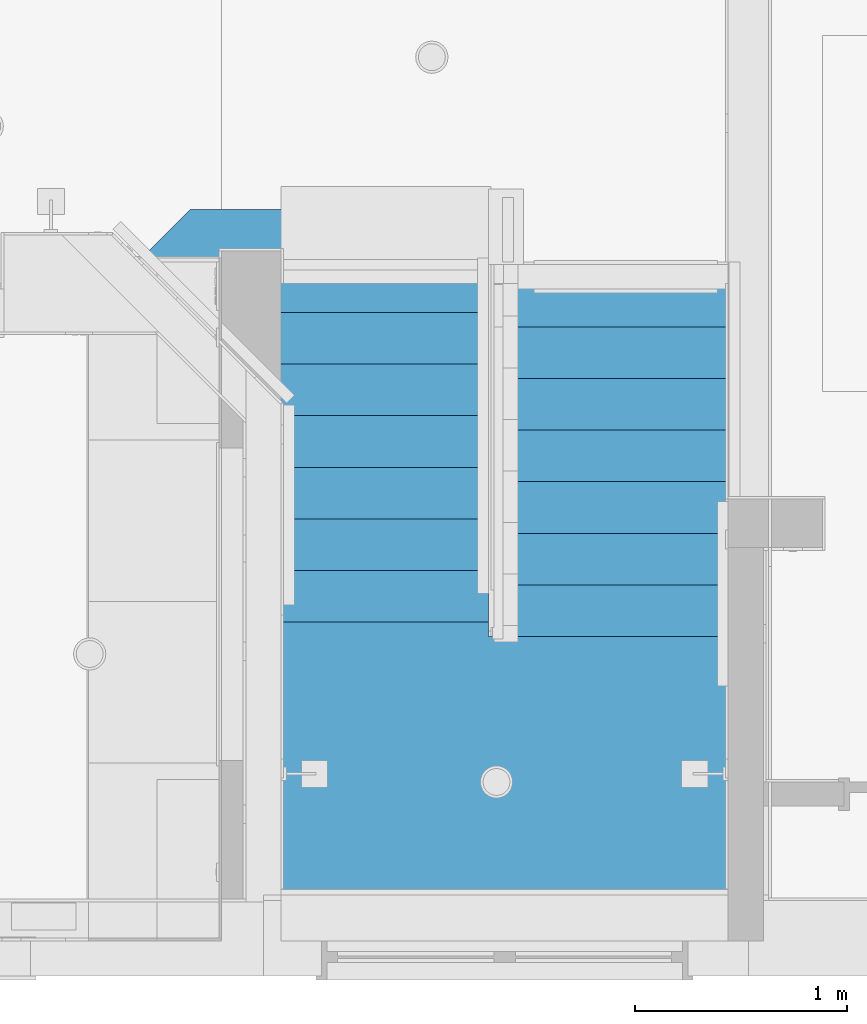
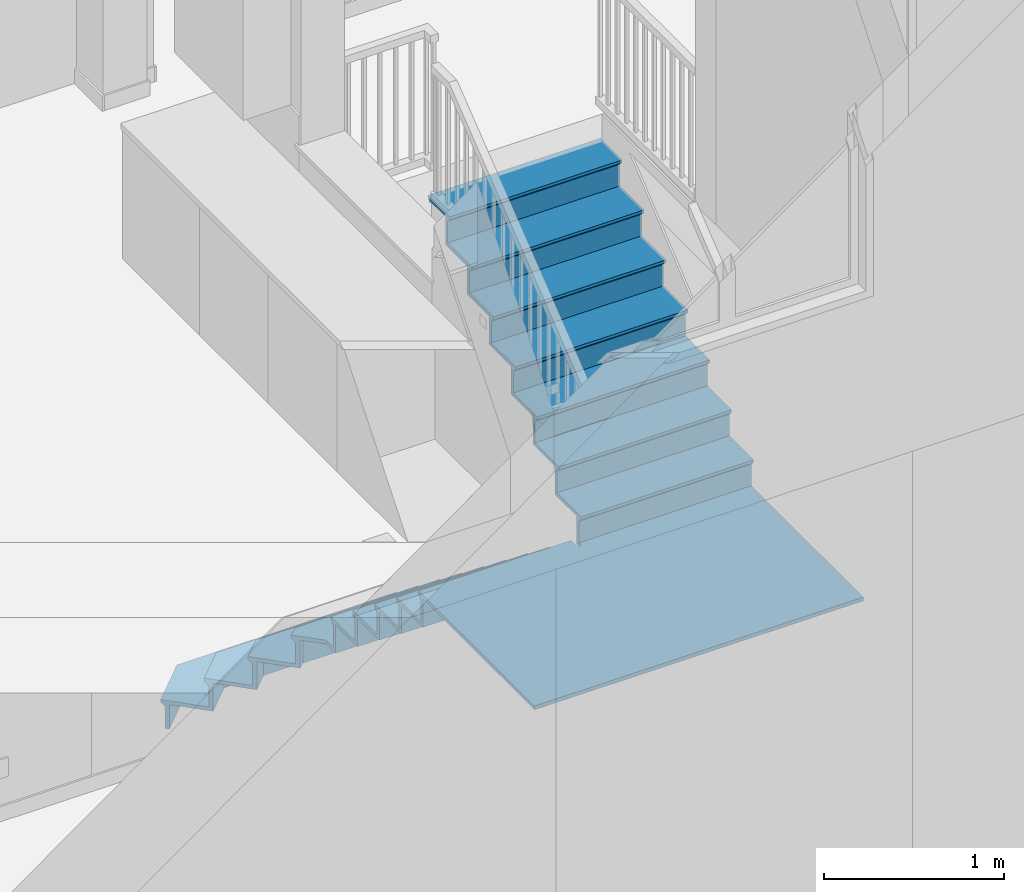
# One storey, part 30 of 60: 1 stair flight, 1 element without a shape of its own.
"""IFC2X3 building model written with IfcOpenShell, lengths in feet."""

from ifc_helpers import new_model, entity, si_unit, converted_unit, direction, frame, origin, place, context, subcontext, project, spatial, faceted_brep, material, type_object, element, aggregate, save


model = new_model("IFC2X3")

# Units and contexts
model_context = context("Model", 3, precision=0.0001, world=origin(), true_north=direction((6.123031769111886e-17, 1.0)))
plan_context = context("Plan", 3, precision=0.0001, world=origin(), true_north=direction((6.123031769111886e-17, 1.0)))
body_context = subcontext(model_context, "Body", "Model", "MODEL_VIEW")
ifc_project = project(units=[converted_unit("LENGTHUNIT", "FOOT", entity("IfcLengthMeasure", 0.3048), si_unit("LENGTHUNIT", "METRE"), dimensions=[1, 0, 0, 0, 0, 0, 0]), converted_unit("AREAUNIT", "SQUARE FOOT", entity("IfcAreaMeasure", 0.09290304), si_unit("AREAUNIT", "SQUARE_METRE"), dimensions=[2, 0, 0, 0, 0, 0, 0]), converted_unit("PLANEANGLEUNIT", "DEGREE", entity("IfcPlaneAngleMeasure", 0.017453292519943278), si_unit("PLANEANGLEUNIT", "RADIAN"), dimensions=[0, 0, 0, 0, 0, 0, 0])], contexts=[model_context, plan_context])

# Site, building, storey
site_placement = place(None, origin())
site = spatial("IfcSite", under=ifc_project, at=site_placement, Name="Default", CompositionType="ELEMENT")
building_placement = place(site_placement, origin())
building = spatial("IfcBuilding", under=site, at=building_placement, CompositionType="ELEMENT")
storey_placement = place(building_placement, origin())
storey = spatial("IfcBuildingStorey", under=building, at=storey_placement, Name="First floor", CompositionType="ELEMENT", Elevation=0.0)

# Stair, stair flight
type_product = type_object("IfcTypeProduct", Name="Assembled Stair:Stair_2018")
stair_placement = place(storey_placement, origin())
stair = element("IfcStair", 1, at=stair_placement, inside=storey, type_object=type_product, Name="Assembled Stair:Stair", ObjectType="Assembled Stair:Stair_2018", ShapeType="NOTDEFINED")
ifc_material = material(Name="Default New Material")
stair_flight_type = type_object("IfcStairFlightType", Name="Non-Monolithic Run:1\" Tread 1\" Nosing 1/4\" Riser 2", PredefinedType="NOTDEFINED")
stair_flight_placement = place(stair_placement, frame((11.247962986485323, 1.2498757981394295, 0.0)))
stair_flight = element("IfcStairFlight", 2, at=stair_flight_placement, type_object=stair_flight_type, material=ifc_material, Name="Assembled Stair:Stair:1826337 Run 1", ObjectType="Non-Monolithic Run:1\" Tread 1\" Nosing 1/4\" Riser 2", NumberOfRiser=16, NumberOfTreads=16, RiserHeight=0.6276041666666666, TreadLength=1.0, context=body_context, shape_type="Brep", body=[
    faceted_brep([(0.8104629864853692, 10.604290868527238, 0.5651041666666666), (0.8104629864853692, 10.604290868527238, 0.6276041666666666), (5.418703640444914, 10.604290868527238, 0.6276041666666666), (5.418703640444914, 10.604290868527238, 0.5651041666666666), (0.8449807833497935, 10.520957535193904, 0.48177083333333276), (5.418703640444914, 10.520957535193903, 0.481770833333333), (5.418703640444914, 10.520957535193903, 0.5442708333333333), (0.8449807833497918, 10.520957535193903, 0.5442708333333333), (0.0, 9.793827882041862, 0.6276041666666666), (0.6425504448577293, 9.15127743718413, 0.6276041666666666), (1.2146114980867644, 9.723338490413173, 0.6276041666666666), (5.418703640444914, 9.723338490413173, 0.6276041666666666), (5.418703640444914, 9.723338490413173, 0.5442708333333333), (1.2146114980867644, 9.723338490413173, 0.5442708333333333), (0.6425504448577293, 9.15127743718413, 0.5442708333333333), (0.05892556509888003, 9.734902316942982, 0.5442708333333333), (0.0, 9.793827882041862, 0.5651041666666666), (0.05892556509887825, 9.734902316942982, 0.481770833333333)], [[[0, 1, 2, 3]], [[4, 0, 3, 5]], [[4, 5, 6, 7]], [[2, 1, 8, 9, 10, 11]], [[6, 12, 13, 14, 15, 7]], [[2, 11, 12, 6, 5, 3]], [[9, 8, 16, 17, 15, 14]], [[11, 10, 13, 12]], [[16, 8, 1, 0]], [[17, 16, 0, 4]], [[17, 4, 7, 15]], [[10, 9, 14, 13]]]),
    faceted_brep([(5.418703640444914, 10.520957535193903, 0.5442708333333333), (5.418703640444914, 10.43762420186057, 0.5442708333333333), (5.418703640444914, 10.43762420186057, 0.0), (5.418703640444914, 10.520957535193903, 0.0), (0.8449807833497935, 10.520957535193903, 0.0), (0.8449807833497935, 10.520957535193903, 0.5442708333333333), (0.8794985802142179, 10.43762420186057, 0.0), (0.8794985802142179, 10.43762420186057, 0.5442708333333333), (0.05892556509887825, 9.734902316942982, 0.5442708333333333), (0.05892556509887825, 9.734902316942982, 0.0), (0.1178511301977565, 9.675976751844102, 0.0), (0.1178511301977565, 9.675976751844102, 0.5442708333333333)], [[[0, 1, 2, 3]], [[4, 5, 0, 3]], [[6, 4, 3, 2]], [[7, 6, 2, 1]], [[5, 7, 1, 0]], [[8, 9, 10, 11]], [[9, 8, 5, 4]], [[10, 9, 4, 6]], [[11, 10, 6, 7]], [[8, 11, 7, 5]]]),
    faceted_brep([(5.418703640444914, 9.723338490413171, 1.171875), (5.418703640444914, 9.64000515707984, 1.171875), (5.418703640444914, 9.64000515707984, 0.5442708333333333), (5.418703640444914, 9.723338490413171, 0.5442708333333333), (1.2146114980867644, 9.723338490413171, 0.5442708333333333), (1.2146114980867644, 9.723338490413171, 1.171875), (1.2491292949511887, 9.64000515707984, 0.5442708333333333), (1.2491292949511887, 9.64000515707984, 1.171875), (0.6425504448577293, 9.15127743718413, 1.171875), (0.6425504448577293, 9.15127743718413, 0.5442708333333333), (0.7014760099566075, 9.09235187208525, 0.5442708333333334), (0.7014760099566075, 9.09235187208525, 1.171875)], [[[0, 1, 2, 3]], [[4, 5, 0, 3]], [[6, 4, 3, 2]], [[7, 6, 2, 1]], [[5, 7, 1, 0]], [[8, 9, 10, 11]], [[9, 8, 5, 4]], [[10, 9, 4, 6]], [[11, 10, 6, 7]], [[8, 11, 7, 5]]]),
    faceted_brep([(5.418703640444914, 9.806671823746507, 1.2552083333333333), (1.18009370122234, 9.806671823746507, 1.2552083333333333), (0.583624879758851, 9.21020300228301, 1.2552083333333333), (1.2261753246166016, 8.567652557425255, 1.2552083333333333), (1.5842422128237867, 8.925719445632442, 1.2552083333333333), (5.418703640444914, 8.925719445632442, 1.2552083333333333), (5.418703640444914, 9.723338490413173, 1.171875), (5.418703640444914, 8.925719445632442, 1.171875), (1.5842422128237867, 8.925719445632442, 1.171875), (1.2261753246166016, 8.567652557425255, 1.171875), (0.6425504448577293, 9.151277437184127, 1.171875), (1.2146114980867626, 9.723338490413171, 1.171875), (5.418703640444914, 9.723338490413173, 1.1093749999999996), (5.418703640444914, 9.806671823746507, 1.1927083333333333), (0.583624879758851, 9.21020300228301, 1.1927083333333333), (0.6425504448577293, 9.15127743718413, 1.1093749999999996), (1.18009370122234, 9.806671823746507, 1.1927083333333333), (1.2146114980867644, 9.723338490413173, 1.1093749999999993)], [[[0, 1, 2, 3, 4, 5]], [[6, 7, 8, 9, 10, 11]], [[0, 5, 7, 6, 12, 13]], [[3, 2, 14, 15, 10, 9]], [[5, 4, 8, 7]], [[16, 1, 0, 13]], [[17, 16, 13, 12]], [[17, 12, 6, 11]], [[4, 3, 9, 8]], [[14, 2, 1, 16]], [[15, 14, 16, 17]], [[15, 17, 11, 10]]]),
    faceted_brep([(2.210369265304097, 4.937624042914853, 4.9375), (2.210369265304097, 4.937624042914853, 4.309895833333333), (2.210369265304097, 4.8542907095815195, 4.309895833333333), (2.210369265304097, 4.8542907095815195, 4.9375), (5.418703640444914, 4.937624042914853, 4.9375), (5.418703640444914, 4.8542907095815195, 4.9375), (5.418703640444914, 4.8542907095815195, 4.309895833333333), (5.418703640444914, 4.937624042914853, 4.309895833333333)], [[[0, 1, 2, 3]], [[4, 5, 6, 7]], [[1, 0, 4, 7]], [[2, 1, 7, 6]], [[3, 2, 6, 5]], [[0, 3, 5, 4]]]),
    faceted_brep([(5.418703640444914, 5.020957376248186, 5.020833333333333), (2.210369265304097, 5.020957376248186, 5.020833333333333), (2.210369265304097, 4.140005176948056, 5.020833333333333), (5.418703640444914, 4.140005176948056, 5.020833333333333), (5.418703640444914, 4.937624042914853, 4.9375), (5.418703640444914, 4.140005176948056, 4.9375), (2.210369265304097, 4.140005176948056, 4.9375), (2.210369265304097, 4.937624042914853, 4.9375), (5.418703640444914, 4.937624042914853, 4.874999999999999), (5.418703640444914, 5.020957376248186, 4.958333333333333), (2.210369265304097, 5.020957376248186, 4.958333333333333), (2.210369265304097, 4.937624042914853, 4.875)], [[[0, 1, 2, 3]], [[4, 5, 6, 7]], [[0, 3, 5, 4, 8, 9]], [[2, 1, 10, 11, 7, 6]], [[3, 2, 6, 5]], [[10, 1, 0, 9]], [[11, 10, 9, 8]], [[11, 8, 4, 7]]]),
    faceted_brep([(2.210369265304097, 4.140005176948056, 5.565104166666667), (2.210369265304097, 4.140005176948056, 4.9375), (2.210369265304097, 4.056671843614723, 4.9375), (2.210369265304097, 4.056671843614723, 5.565104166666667), (5.418703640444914, 4.140005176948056, 5.565104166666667), (5.418703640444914, 4.056671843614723, 5.565104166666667), (5.418703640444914, 4.056671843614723, 4.9375), (5.418703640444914, 4.140005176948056, 4.9375)], [[[0, 1, 2, 3]], [[4, 5, 6, 7]], [[1, 0, 4, 7]], [[2, 1, 7, 6]], [[3, 2, 6, 5]], [[0, 3, 5, 4]]]),
    faceted_brep([(5.502037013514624, 4.083457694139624, 5.6484375), (5.502037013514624, 4.000124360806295, 5.6484375), (5.418703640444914, 4.000124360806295, 5.6484375), (5.418703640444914, 4.223338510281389, 5.6484375), (2.210369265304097, 4.223338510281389, 5.6484375), (2.210369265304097, 3.0956065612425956, 5.6484375), (2.210369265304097, 0.0, 5.6484375), (6.594305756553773, 0.0, 5.6484375), (9.127037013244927, 0.0, 5.6484375), (9.127037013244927, 4.000124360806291, 5.6484375), (9.127037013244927, 4.083457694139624, 5.6484375), (5.502037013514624, 4.000124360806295, 5.565104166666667), (5.502037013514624, 4.083457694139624, 5.565104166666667), (9.127037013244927, 4.083457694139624, 5.565104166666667), (9.127037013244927, 4.000124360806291, 5.565104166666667), (9.127037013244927, 0.0, 5.565104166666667), (6.594305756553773, 0.0, 5.565104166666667), (2.210369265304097, 0.0, 5.565104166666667), (2.210369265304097, 3.0956065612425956, 5.565104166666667), (2.210369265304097, 4.140005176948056, 5.565104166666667), (5.418703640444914, 4.140005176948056, 5.565104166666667), (5.418703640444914, 4.000124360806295, 5.565104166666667), (2.210369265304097, 4.223338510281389, 5.5859375), (2.210369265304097, 4.140005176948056, 5.502604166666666), (5.418703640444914, 4.223338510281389, 5.5859375), (5.418703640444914, 4.140005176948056, 5.502604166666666)], [[[0, 1, 2, 3, 4, 5, 6, 7, 8, 9, 10]], [[11, 12, 13, 14, 15, 16, 17, 18, 19, 20, 21]], [[1, 0, 12, 11]], [[2, 1, 11, 21]], [[5, 4, 22, 23, 19, 18]], [[6, 5, 18, 17]], [[7, 6, 17, 16]], [[8, 7, 16, 15]], [[0, 10, 13, 12]], [[23, 22, 24, 25]], [[23, 25, 20, 19]], [[3, 2, 21, 20, 25, 24]], [[9, 8, 15, 14]], [[10, 9, 14, 13]], [[22, 4, 3, 24]]]),
    faceted_brep([(9.127037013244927, 4.083457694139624, 6.192708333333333), (9.127037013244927, 4.083457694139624, 5.565104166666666), (9.127037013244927, 4.166791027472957, 5.565104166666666), (9.127037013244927, 4.166791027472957, 6.192708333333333), (5.502037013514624, 4.083457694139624, 6.192708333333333), (5.502037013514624, 4.166791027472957, 6.192708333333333), (5.502037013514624, 4.166791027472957, 5.565104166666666), (5.502037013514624, 4.083457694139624, 5.565104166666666)], [[[0, 1, 2, 3]], [[4, 5, 6, 7]], [[1, 0, 4, 7]], [[2, 1, 7, 6]], [[3, 2, 6, 5]], [[0, 3, 5, 4]]]),
    faceted_brep([(5.502037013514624, 4.000124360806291, 6.276041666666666), (9.127037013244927, 4.000124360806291, 6.276041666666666), (9.127037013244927, 4.881076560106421, 6.276041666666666), (5.502037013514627, 4.881076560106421, 6.276041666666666), (5.502037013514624, 4.083457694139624, 6.192708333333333), (5.502037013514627, 4.881076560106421, 6.192708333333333), (9.127037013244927, 4.881076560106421, 6.192708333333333), (9.127037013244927, 4.083457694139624, 6.192708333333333), (5.502037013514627, 4.083457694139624, 6.130208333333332), (5.502037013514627, 4.000124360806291, 6.213541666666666), (9.127037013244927, 4.000124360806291, 6.213541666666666), (9.127037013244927, 4.083457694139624, 6.130208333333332)], [[[0, 1, 2, 3]], [[4, 5, 6, 7]], [[0, 3, 5, 4, 8, 9]], [[2, 1, 10, 11, 7, 6]], [[3, 2, 6, 5]], [[10, 1, 0, 9]], [[11, 10, 9, 8]], [[11, 8, 4, 7]]]),
    faceted_brep([(9.127037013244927, 4.881076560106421, 6.8203125), (9.127037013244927, 4.881076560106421, 6.192708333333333), (9.127037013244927, 4.964409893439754, 6.192708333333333), (9.127037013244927, 4.964409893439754, 6.8203125), (5.502037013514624, 4.881076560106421, 6.8203125), (5.502037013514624, 4.964409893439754, 6.8203125), (5.502037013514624, 4.964409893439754, 6.192708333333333), (5.502037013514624, 4.881076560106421, 6.192708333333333)], [[[0, 1, 2, 3]], [[4, 5, 6, 7]], [[1, 0, 4, 7]], [[2, 1, 7, 6]], [[3, 2, 6, 5]], [[0, 3, 5, 4]]]),
    faceted_brep([(5.502037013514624, 4.797743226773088, 6.903645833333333), (9.127037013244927, 4.797743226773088, 6.903645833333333), (9.127037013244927, 5.678695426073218, 6.903645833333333), (5.502037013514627, 5.678695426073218, 6.903645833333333), (5.502037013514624, 4.881076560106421, 6.8203125), (5.502037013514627, 5.678695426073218, 6.8203125), (9.127037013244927, 5.678695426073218, 6.8203125), (9.127037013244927, 4.881076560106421, 6.8203125), (5.502037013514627, 4.881076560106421, 6.757812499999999), (5.502037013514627, 4.797743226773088, 6.841145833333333), (9.127037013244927, 4.797743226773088, 6.841145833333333), (9.127037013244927, 4.881076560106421, 6.757812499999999)], [[[0, 1, 2, 3]], [[4, 5, 6, 7]], [[0, 3, 5, 4, 8, 9]], [[2, 1, 10, 11, 7, 6]], [[3, 2, 6, 5]], [[10, 1, 0, 9]], [[11, 10, 9, 8]], [[11, 8, 4, 7]]]),
    faceted_brep([(5.418703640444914, 8.92571944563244, 1.7994791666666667), (5.418703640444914, 8.842386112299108, 1.7994791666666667), (5.418703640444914, 8.842386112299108, 1.171875), (5.418703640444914, 8.92571944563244, 1.171875), (1.584242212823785, 8.92571944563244, 1.171875), (1.5842422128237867, 8.92571944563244, 1.7994791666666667), (1.618760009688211, 8.842386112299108, 1.171875), (1.618760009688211, 8.84238611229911, 1.7994791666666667), (1.2261753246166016, 8.567652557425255, 1.7994791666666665), (1.2261753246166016, 8.567652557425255, 1.171875), (1.2851008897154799, 8.508726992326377, 1.171875), (1.2851008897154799, 8.508726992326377, 1.7994791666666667)], [[[0, 1, 2, 3]], [[4, 5, 0, 3]], [[6, 4, 3, 2]], [[7, 6, 2, 1]], [[5, 7, 1, 0]], [[8, 9, 10, 11]], [[9, 8, 5, 4]], [[10, 9, 4, 6]], [[11, 10, 6, 7]], [[8, 11, 7, 5]]]),
    faceted_brep([(5.418703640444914, 9.009052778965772, 1.8828125), (1.5497244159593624, 9.009052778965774, 1.8828125), (1.1672497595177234, 8.626578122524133, 1.8828125), (1.7996848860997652, 7.99414299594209, 1.8828125), (1.9503870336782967, 8.128100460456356, 1.8828125), (5.418703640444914, 8.128100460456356, 1.8828125), (5.418703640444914, 8.925719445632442, 1.7994791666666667), (5.418703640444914, 8.128100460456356, 1.7994791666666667), (1.9503870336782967, 8.128100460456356, 1.7994791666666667), (1.7996848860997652, 7.99414299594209, 1.7994791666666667), (1.2261753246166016, 8.567652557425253, 1.7994791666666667), (1.584242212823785, 8.92571944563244, 1.7994791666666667), (5.418703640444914, 8.925719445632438, 1.7369791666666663), (5.418703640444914, 9.009052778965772, 1.8203125), (1.1672497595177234, 8.626578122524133, 1.8203125), (1.2261753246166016, 8.567652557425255, 1.7369791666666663), (1.5497244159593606, 9.009052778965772, 1.8203125), (1.5842422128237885, 8.925719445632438, 1.736979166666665)], [[[0, 1, 2, 3, 4, 5]], [[6, 7, 8, 9, 10, 11]], [[0, 5, 7, 6, 12, 13]], [[3, 2, 14, 15, 10, 9]], [[5, 4, 8, 7]], [[16, 1, 0, 13]], [[17, 16, 13, 12]], [[17, 12, 6, 11]], [[4, 3, 9, 8]], [[14, 2, 1, 16]], [[15, 14, 16, 17]], [[15, 17, 11, 10]]]),
    faceted_brep([(9.127037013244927, 8.869171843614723, 9.958333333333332), (9.127037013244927, 8.869171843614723, 9.330729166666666), (9.127037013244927, 8.952505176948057, 9.330729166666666), (9.127037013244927, 8.952505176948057, 9.958333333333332), (5.502037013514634, 8.869171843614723, 9.958333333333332), (5.502037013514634, 8.952505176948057, 9.958333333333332), (5.502037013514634, 8.952505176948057, 9.330729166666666), (5.502037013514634, 8.869171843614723, 9.330729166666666)], [[[0, 1, 2, 3]], [[4, 5, 6, 7]], [[1, 0, 4, 7]], [[2, 1, 7, 6]], [[3, 2, 6, 5]], [[0, 3, 5, 4]]]),
    faceted_brep([(5.502037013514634, 8.785838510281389, 10.041666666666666), (9.127037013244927, 8.785838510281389, 10.041666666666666), (9.127037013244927, 9.583364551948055, 10.041666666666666), (5.502037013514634, 9.583364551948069, 10.041666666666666), (5.502037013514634, 8.869171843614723, 9.958333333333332), (5.502037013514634, 9.583364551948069, 9.958333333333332), (9.127037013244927, 9.583364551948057, 9.958333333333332), (9.127037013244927, 8.869171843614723, 9.958333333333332), (5.502037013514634, 8.869171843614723, 9.895833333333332), (5.502037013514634, 8.785838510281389, 9.979166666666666), (9.127037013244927, 8.785838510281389, 9.979166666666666), (9.127037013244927, 8.869171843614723, 9.895833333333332)], [[[0, 1, 2, 3]], [[4, 5, 6, 7]], [[0, 3, 5, 4, 8, 9]], [[2, 1, 10, 11, 7, 6]], [[3, 2, 6, 5]], [[10, 1, 0, 9]], [[11, 10, 9, 8]], [[11, 8, 4, 7]]]),
    faceted_brep([(1.7996848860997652, 7.99414299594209, 2.427083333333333), (1.7996848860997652, 7.99414299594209, 1.7994791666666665), (1.8587123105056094, 7.935115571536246, 1.7994791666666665), (1.8587123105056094, 7.935115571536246, 2.427083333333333), (1.9503870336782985, 8.128100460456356, 2.427083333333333), (1.9503870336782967, 8.128100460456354, 1.7994791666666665), (1.9820703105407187, 8.044767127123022, 1.7994791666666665), (1.9820703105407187, 8.044767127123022, 2.427083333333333), (5.418703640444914, 8.128100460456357, 2.427083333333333), (5.418703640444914, 8.044767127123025, 2.427083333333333), (5.418703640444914, 8.044767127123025, 1.7994791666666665), (5.418703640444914, 8.128100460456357, 1.7994791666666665)], [[[0, 1, 2, 3]], [[1, 0, 4, 5]], [[2, 1, 5, 6]], [[3, 2, 6, 7]], [[0, 3, 7, 4]], [[8, 9, 10, 11]], [[5, 4, 8, 11]], [[6, 5, 11, 10]], [[7, 6, 10, 9]], [[4, 7, 9, 8]]]),
    faceted_brep([(5.418703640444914, 8.21143379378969, 2.5104166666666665), (1.9187037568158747, 8.211433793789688, 2.5104166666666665), (1.740657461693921, 8.053170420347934, 2.5104166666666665), (2.210369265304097, 7.583458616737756, 2.5104166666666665), (2.210369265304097, 7.33048135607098, 2.5104166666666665), (5.418703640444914, 7.33048135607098, 2.5104166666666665), (5.418703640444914, 8.128100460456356, 2.427083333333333), (5.418703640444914, 7.33048135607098, 2.427083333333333), (2.210369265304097, 7.33048135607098, 2.427083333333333), (2.210369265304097, 7.583458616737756, 2.427083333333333), (1.7996848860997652, 7.99414299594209, 2.427083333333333), (1.9503870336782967, 8.128100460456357, 2.427083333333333), (5.418703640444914, 8.128100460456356, 2.364583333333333), (5.418703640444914, 8.21143379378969, 2.4479166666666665), (1.740657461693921, 8.053170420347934, 2.4479166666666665), (1.7996848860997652, 7.99414299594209, 2.364583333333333), (1.9187037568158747, 8.211433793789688, 2.4479166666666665), (1.9503870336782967, 8.128100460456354, 2.364583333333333)], [[[0, 1, 2, 3, 4, 5]], [[6, 7, 8, 9, 10, 11]], [[0, 5, 7, 6, 12, 13]], [[3, 2, 14, 15, 10, 9]], [[4, 3, 9, 8]], [[5, 4, 8, 7]], [[14, 2, 1, 16]], [[15, 14, 16, 17]], [[15, 17, 11, 10]], [[16, 1, 0, 13]], [[17, 16, 13, 12]], [[17, 12, 6, 11]]]),
    faceted_brep([(2.210369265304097, 7.33048135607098, 3.0546874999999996), (2.210369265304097, 7.33048135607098, 2.427083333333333), (2.210369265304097, 7.247148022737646, 2.427083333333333), (2.210369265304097, 7.247148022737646, 3.0546874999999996), (5.418703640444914, 7.33048135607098, 3.0546874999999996), (5.418703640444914, 7.247148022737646, 3.0546874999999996), (5.418703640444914, 7.247148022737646, 2.427083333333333), (5.418703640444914, 7.33048135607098, 2.427083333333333)], [[[0, 1, 2, 3]], [[4, 5, 6, 7]], [[1, 0, 4, 7]], [[2, 1, 7, 6]], [[3, 2, 6, 5]], [[0, 3, 5, 4]]]),
    faceted_brep([(5.418703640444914, 7.4138146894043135, 3.138020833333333), (2.210369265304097, 7.4138146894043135, 3.138020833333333), (2.210369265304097, 6.5328622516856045, 3.138020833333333), (5.418703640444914, 6.5328622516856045, 3.138020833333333), (5.418703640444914, 7.33048135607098, 3.0546874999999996), (5.418703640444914, 6.5328622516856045, 3.0546874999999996), (2.210369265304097, 6.5328622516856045, 3.0546874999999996), (2.210369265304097, 7.33048135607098, 3.0546874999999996), (5.418703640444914, 7.33048135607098, 2.9921874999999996), (5.418703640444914, 7.4138146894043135, 3.075520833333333), (2.210369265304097, 7.4138146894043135, 3.075520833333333), (2.210369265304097, 7.33048135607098, 2.9921874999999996)], [[[0, 1, 2, 3]], [[4, 5, 6, 7]], [[0, 3, 5, 4, 8, 9]], [[2, 1, 10, 11, 7, 6]], [[3, 2, 6, 5]], [[10, 1, 0, 9]], [[11, 10, 9, 8]], [[11, 8, 4, 7]]]),
    faceted_brep([(2.210369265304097, 6.5328622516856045, 3.6822916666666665), (2.210369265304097, 6.5328622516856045, 3.0546875), (2.210369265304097, 6.4495289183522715, 3.0546875), (2.210369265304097, 6.4495289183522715, 3.6822916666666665), (5.418703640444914, 6.5328622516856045, 3.6822916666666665), (5.418703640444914, 6.4495289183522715, 3.6822916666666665), (5.418703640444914, 6.4495289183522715, 3.0546875), (5.418703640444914, 6.5328622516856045, 3.0546875)], [[[0, 1, 2, 3]], [[4, 5, 6, 7]], [[1, 0, 4, 7]], [[2, 1, 7, 6]], [[3, 2, 6, 5]], [[0, 3, 5, 4]]]),
    faceted_brep([(5.418703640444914, 6.616195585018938, 3.765625), (2.210369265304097, 6.616195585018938, 3.765625), (2.210369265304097, 5.735243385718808, 3.765625), (5.418703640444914, 5.735243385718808, 3.765625), (5.418703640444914, 6.5328622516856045, 3.6822916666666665), (5.418703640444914, 5.735243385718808, 3.6822916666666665), (2.210369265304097, 5.735243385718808, 3.6822916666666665), (2.210369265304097, 6.5328622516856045, 3.6822916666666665), (5.418703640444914, 6.5328622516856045, 3.6197916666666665), (5.418703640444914, 6.616195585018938, 3.703125), (2.210369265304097, 6.616195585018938, 3.703125), (2.210369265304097, 6.5328622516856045, 3.6197916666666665)], [[[0, 1, 2, 3]], [[4, 5, 6, 7]], [[0, 3, 5, 4, 8, 9]], [[2, 1, 10, 11, 7, 6]], [[3, 2, 6, 5]], [[10, 1, 0, 9]], [[11, 10, 9, 8]], [[11, 8, 4, 7]]]),
    faceted_brep([(2.210369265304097, 5.735243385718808, 4.309895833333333), (2.210369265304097, 5.735243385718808, 3.682291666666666), (2.210369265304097, 5.651910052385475, 3.6822916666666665), (2.210369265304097, 5.651910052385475, 4.309895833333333), (5.418703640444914, 5.735243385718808, 4.309895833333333), (5.418703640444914, 5.651910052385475, 4.309895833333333), (5.418703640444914, 5.651910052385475, 3.682291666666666), (5.418703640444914, 5.735243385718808, 3.682291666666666)], [[[0, 1, 2, 3]], [[4, 5, 6, 7]], [[1, 0, 4, 7]], [[2, 1, 7, 6]], [[3, 2, 6, 5]], [[0, 3, 5, 4]]]),
    faceted_brep([(5.418703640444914, 5.818576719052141, 4.393229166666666), (2.210369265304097, 5.818576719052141, 4.393229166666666), (2.210369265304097, 4.937624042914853, 4.393229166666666), (5.418703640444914, 4.937624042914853, 4.393229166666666), (5.418703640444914, 5.735243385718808, 4.309895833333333), (5.418703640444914, 4.937624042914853, 4.309895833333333), (2.210369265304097, 4.937624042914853, 4.309895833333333), (2.210369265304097, 5.735243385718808, 4.309895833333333), (5.418703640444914, 5.735243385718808, 4.247395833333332), (5.418703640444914, 5.818576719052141, 4.330729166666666), (2.210369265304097, 5.818576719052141, 4.330729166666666), (2.210369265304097, 5.735243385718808, 4.247395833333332)], [[[0, 1, 2, 3]], [[4, 5, 6, 7]], [[0, 3, 5, 4, 8, 9]], [[2, 1, 10, 11, 7, 6]], [[3, 2, 6, 5]], [[10, 1, 0, 9]], [[11, 10, 9, 8]], [[11, 8, 4, 7]]]),
    faceted_brep([(9.127037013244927, 5.678695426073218, 7.447916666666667), (9.127037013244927, 5.678695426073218, 6.8203125), (9.127037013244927, 5.762028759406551, 6.8203125), (9.127037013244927, 5.762028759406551, 7.447916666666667), (5.502037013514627, 5.678695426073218, 7.447916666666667), (5.502037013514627, 5.762028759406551, 7.447916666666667), (5.502037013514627, 5.762028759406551, 6.8203125), (5.502037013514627, 5.678695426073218, 6.8203125)], [[[0, 1, 2, 3]], [[4, 5, 6, 7]], [[1, 0, 4, 7]], [[2, 1, 7, 6]], [[3, 2, 6, 5]], [[0, 3, 5, 4]]]),
    faceted_brep([(5.502037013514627, 5.595362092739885, 7.53125), (9.127037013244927, 5.595362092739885, 7.53125), (9.127037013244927, 6.476314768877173, 7.53125), (5.502037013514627, 6.476314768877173, 7.53125), (5.502037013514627, 5.678695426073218, 7.447916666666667), (5.502037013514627, 6.476314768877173, 7.447916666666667), (9.127037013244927, 6.476314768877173, 7.447916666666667), (9.127037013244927, 5.678695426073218, 7.447916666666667), (5.502037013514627, 5.678695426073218, 7.385416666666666), (5.502037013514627, 5.595362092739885, 7.46875), (9.127037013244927, 5.595362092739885, 7.46875), (9.127037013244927, 5.678695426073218, 7.385416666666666)], [[[0, 1, 2, 3]], [[4, 5, 6, 7]], [[0, 3, 5, 4, 8, 9]], [[2, 1, 10, 11, 7, 6]], [[3, 2, 6, 5]], [[10, 1, 0, 9]], [[11, 10, 9, 8]], [[11, 8, 4, 7]]]),
    faceted_brep([(9.127037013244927, 6.476314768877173, 8.075520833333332), (9.127037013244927, 6.476314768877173, 7.447916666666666), (9.127037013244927, 6.559648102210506, 7.447916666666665), (9.127037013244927, 6.559648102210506, 8.075520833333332), (5.502037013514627, 6.476314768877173, 8.075520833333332), (5.502037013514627, 6.559648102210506, 8.075520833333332), (5.502037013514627, 6.559648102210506, 7.447916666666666), (5.502037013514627, 6.476314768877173, 7.447916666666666)], [[[0, 1, 2, 3]], [[4, 5, 6, 7]], [[1, 0, 4, 7]], [[2, 1, 7, 6]], [[3, 2, 6, 5]], [[0, 3, 5, 4]]]),
    faceted_brep([(5.502037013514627, 6.39298143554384, 8.158854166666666), (9.127037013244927, 6.39298143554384, 8.158854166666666), (9.127037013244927, 7.273933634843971, 8.158854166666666), (5.502037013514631, 7.273933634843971, 8.158854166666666), (5.502037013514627, 6.476314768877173, 8.075520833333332), (5.502037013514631, 7.273933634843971, 8.075520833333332), (9.127037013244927, 7.273933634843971, 8.075520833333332), (9.127037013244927, 6.476314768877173, 8.075520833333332), (5.502037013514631, 6.476314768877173, 8.013020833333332), (5.502037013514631, 6.39298143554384, 8.096354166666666), (9.127037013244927, 6.39298143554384, 8.096354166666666), (9.127037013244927, 6.476314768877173, 8.013020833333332)], [[[0, 1, 2, 3]], [[4, 5, 6, 7]], [[0, 3, 5, 4, 8, 9]], [[2, 1, 10, 11, 7, 6]], [[3, 2, 6, 5]], [[10, 1, 0, 9]], [[11, 10, 9, 8]], [[11, 8, 4, 7]]]),
    faceted_brep([(9.127037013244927, 7.273933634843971, 8.703124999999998), (9.127037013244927, 7.273933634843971, 8.075520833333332), (9.127037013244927, 7.357266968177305, 8.075520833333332), (9.127037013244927, 7.357266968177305, 8.703124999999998), (5.502037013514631, 7.273933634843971, 8.703124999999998), (5.502037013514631, 7.357266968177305, 8.703124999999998), (5.502037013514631, 7.357266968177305, 8.075520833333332), (5.502037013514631, 7.273933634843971, 8.075520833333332)], [[[0, 1, 2, 3]], [[4, 5, 6, 7]], [[1, 0, 4, 7]], [[2, 1, 7, 6]], [[3, 2, 6, 5]], [[0, 3, 5, 4]]]),
    faceted_brep([(5.502037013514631, 7.190600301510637, 8.786458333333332), (9.127037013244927, 7.190600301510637, 8.786458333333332), (9.127037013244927, 8.071552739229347, 8.786458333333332), (5.502037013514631, 8.071552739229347, 8.786458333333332), (5.502037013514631, 7.273933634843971, 8.703124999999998), (5.502037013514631, 8.071552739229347, 8.703124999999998), (9.127037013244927, 8.071552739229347, 8.703124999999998), (9.127037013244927, 7.273933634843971, 8.703124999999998), (5.502037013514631, 7.273933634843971, 8.640624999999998), (5.502037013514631, 7.190600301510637, 8.723958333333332), (9.127037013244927, 7.190600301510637, 8.723958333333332), (9.127037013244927, 7.273933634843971, 8.640624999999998)], [[[0, 1, 2, 3]], [[4, 5, 6, 7]], [[0, 3, 5, 4, 8, 9]], [[2, 1, 10, 11, 7, 6]], [[3, 2, 6, 5]], [[10, 1, 0, 9]], [[11, 10, 9, 8]], [[11, 8, 4, 7]]]),
    faceted_brep([(9.12703701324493, 8.071552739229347, 9.330729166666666), (9.12703701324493, 8.071552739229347, 8.703125), (9.12703701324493, 8.15488607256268, 8.703125), (9.12703701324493, 8.15488607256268, 9.330729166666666), (5.502037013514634, 8.071552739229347, 9.330729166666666), (5.502037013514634, 8.15488607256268, 9.330729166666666), (5.502037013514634, 8.15488607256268, 8.703125), (5.502037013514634, 8.071552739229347, 8.703125)], [[[0, 1, 2, 3]], [[4, 5, 6, 7]], [[1, 0, 4, 7]], [[2, 1, 7, 6]], [[3, 2, 6, 5]], [[0, 3, 5, 4]]]),
    faceted_brep([(5.502037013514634, 7.988219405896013, 9.4140625), (9.12703701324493, 7.988219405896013, 9.4140625), (9.12703701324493, 8.869171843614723, 9.4140625), (5.502037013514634, 8.869171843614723, 9.4140625), (5.502037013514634, 8.071552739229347, 9.330729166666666), (5.502037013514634, 8.869171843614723, 9.330729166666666), (9.12703701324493, 8.869171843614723, 9.330729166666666), (9.12703701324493, 8.071552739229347, 9.330729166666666), (5.502037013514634, 8.071552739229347, 9.268229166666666), (5.502037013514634, 7.988219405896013, 9.3515625), (9.12703701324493, 7.988219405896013, 9.3515625), (9.12703701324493, 8.071552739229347, 9.268229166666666)], [[[0, 1, 2, 3]], [[4, 5, 6, 7]], [[0, 3, 5, 4, 8, 9]], [[2, 1, 10, 11, 7, 6]], [[3, 2, 6, 5]], [[10, 1, 0, 9]], [[11, 10, 9, 8]], [[11, 8, 4, 7]]]),
])
aggregate(stair, [stair_flight])

save(model, "model.ifc")
